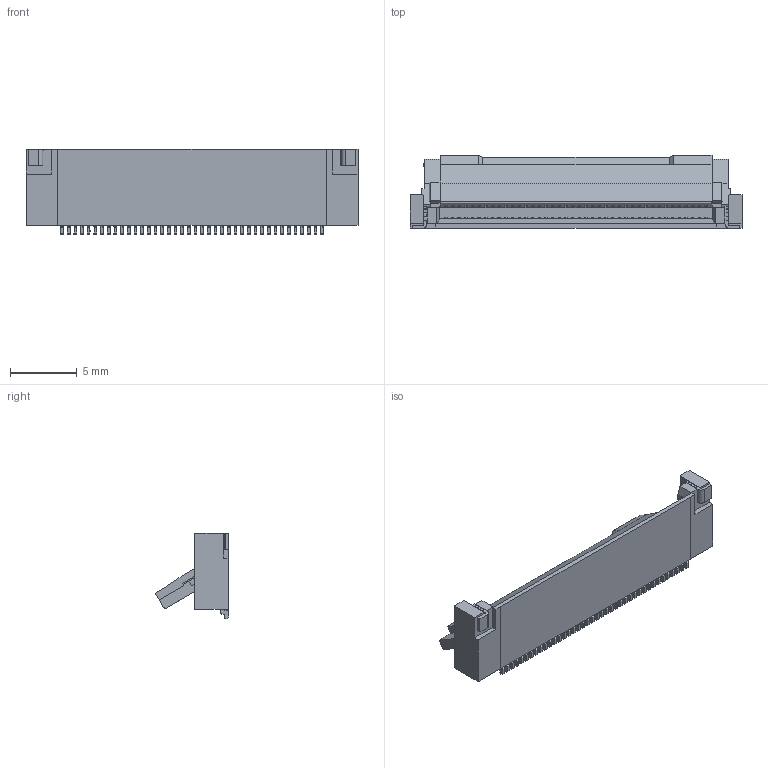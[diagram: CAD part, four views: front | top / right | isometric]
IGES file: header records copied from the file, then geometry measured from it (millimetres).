
Start section: SolidWorks IGES file using analytic representation for surfaces
Global section: file name: C:\3dworks\金子\MINIFLEX5-FF\STEP再作成\close 最終\IGES\20647-040E-01 ASS'Y ACT OPEN IGES R2 ALL.IGS; native system: SolidWorks 2014; preprocessor: SolidWorks 2014; author: ieng2-003; date: 161003.235542; units: millimetre
Bounding box: 24.9 x 5.51 x 6.4 mm (x, y, z)
Surface area: 680.6 mm2 (no closed solid volume)
Topology: 0 solids, 0 shells, 1426 faces, 9424 edges, 9424 vertices
Faces by surface type: bspline 855, revolution 571
